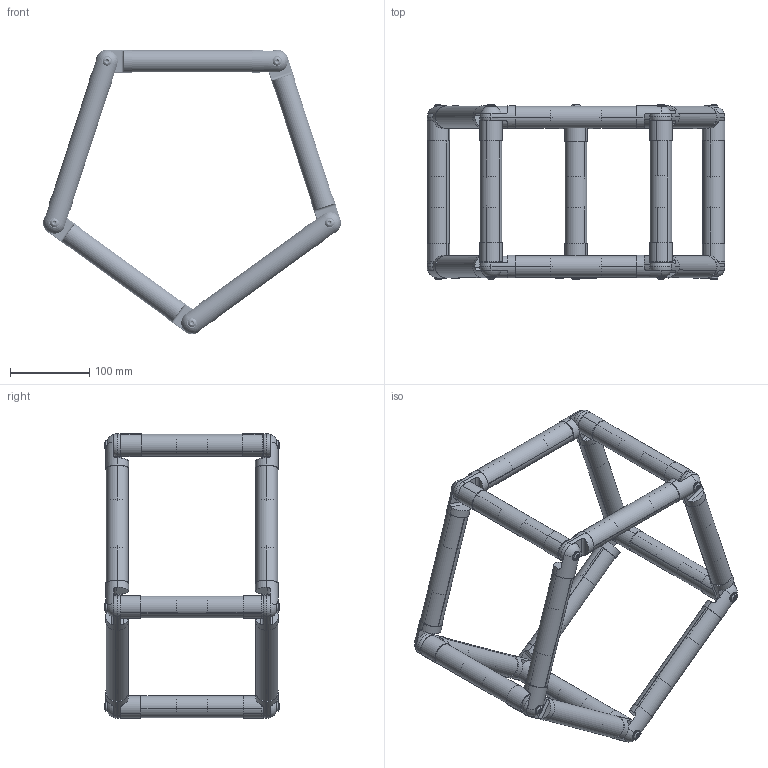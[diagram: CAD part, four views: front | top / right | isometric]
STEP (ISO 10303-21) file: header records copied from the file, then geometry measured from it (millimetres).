
FILE_DESCRIPTION (( 'STEP AP203' ), '1' );
FILE_NAME ('Polygon Truss.STEP', '2013-06-28T15:10:31', ( 'Allred & Associates' ), ( 'Allred & Associates' ), 'SwSTEP 2.0', 'SolidWorks 2013', '' );
FILE_SCHEMA (( 'CONFIG_CONTROL_DESIGN' ));
Length unit declared in the file: inch
Products named in the file (6): DRP-002-0511-00; DRP-002-0509-00; DRP-002-0513-00; 6.000 Inch Tube; 91255A542_91255A542; Polygon Truss
Assembly tree (55 placements, depth 2):
  Polygon Truss
    DRP-002-0511-00  x10
    DRP-002-0509-00  x10
    DRP-002-0513-00  x10
    6.000 Inch Tube  x15
    91255A542_91255A542  x10
Bounding box: 375.1 x 220.52 x 358.12 mm (x, y, z)
Volume: 891506.9 mm3; surface area: 728334.6 mm2
Topology: 55 solids, 55 shells, 2610 faces, 5480 edges, 3010 vertices
Faces by surface type: cylinder 1160, cone 1010, plane 330, torus 60, sphere 50
Entity records: 11471 total; most frequent: CARTESIAN_POINT 3927, DIRECTION 1259, ORIENTED_EDGE 1076, EDGE_CURVE 538, AXIS2_PLACEMENT_3D 515, VERTEX_POINT 297, EDGE_LOOP 273, ADVANCED_FACE 258
